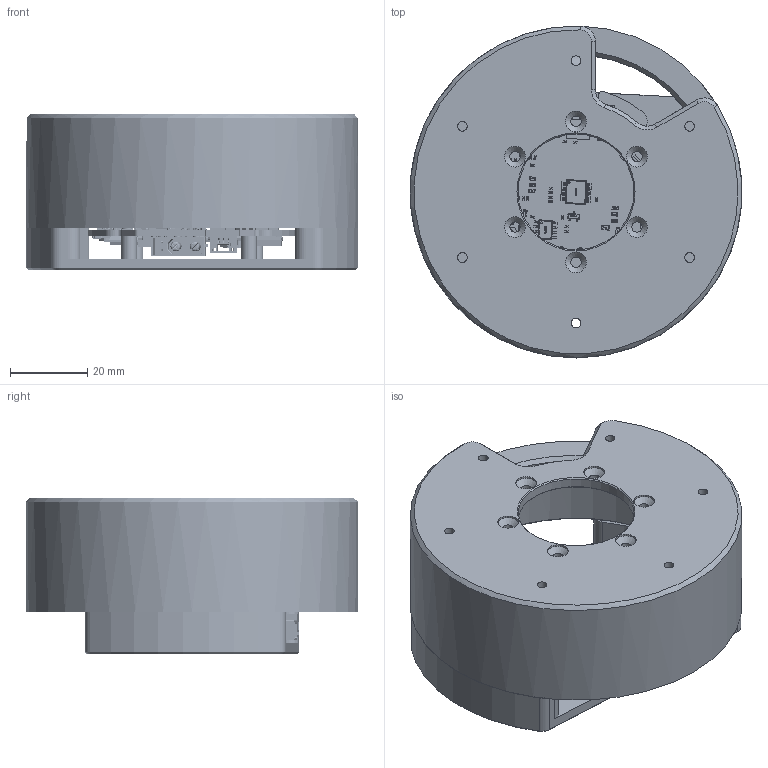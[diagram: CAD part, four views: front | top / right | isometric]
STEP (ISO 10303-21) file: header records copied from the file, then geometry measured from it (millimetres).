
FILE_DESCRIPTION (( 'STEP AP214' ), '1' );
FILE_NAME ('AKE60-8-聆彸馱蚾.STEP', '2025-11-21T03:18:37', ( '' ), ( '' ), 'SwSTEP 2.0', 'SolidWorks 2020', '' );
FILE_SCHEMA (( 'AUTOMOTIVE_DESIGN' ));
Length unit declared in the file: millimetre
Products named in the file (4): 聆彸俋褲; AK-DRVs-12S-XT30PW(2+2)_V3.00; 驱动版罩; AKE60-8-聆彸馱蚾
Assembly tree (3 placements, depth 2):
  AKE60-8-聆彸馱蚾
    聆彸俋褲
    驱动版罩
    AK-DRVs-12S-XT30PW(2+2)_V3.00
Bounding box: 86 x 86 x 40.5 mm (x, y, z)
Volume: 79940.3 mm3; surface area: 44696.3 mm2
Topology: 2 solids, 1821 shells, 6542 faces, 33485 edges, 28089 vertices
Faces by surface type: plane 4257, cylinder 1462, bspline 748, cone 43, torus 32
Full cylindrical faces by diameter (mm): 0.003 x4, 0.006 x1, 0.008 x1, 0.009 x1, 0.013 x1, 0.026 x7, 0.048 x1, 0.06 x2, 0.068 x10, 0.1 x2, 0.169 x2, 0.195 x5, 0.3 x1, 0.39 x2, 0.4 x1, 0.442 x2, 0.45 x2, 0.5 x4, 0.51 x2, 0.6 x1, 0.65 x1, 0.75 x1, 0.9 x2, 1.03 x1, 1.2 x3, 1.6 x4, 1.8 x6, 2.05 x6, 2.5 x8, 2.7 x11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
Entity records: 438127 total; most frequent: CARTESIAN_POINT 203065, DIRECTION 40259, ORIENTED_EDGE 40171, EDGE_CURVE 33216, VERTEX_POINT 28054, LINE 20827, VECTOR 20827, AXIS2_PLACEMENT_3D 9716
